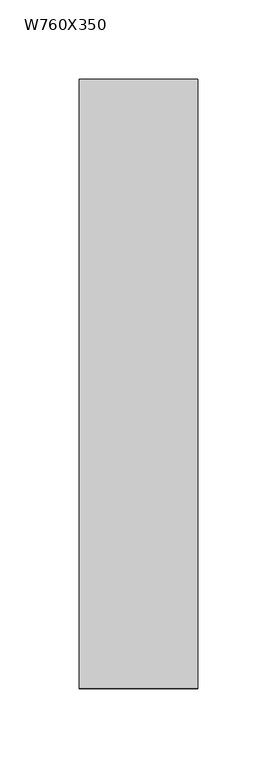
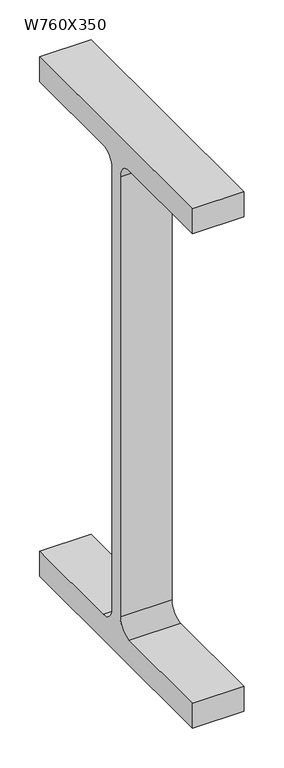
"""IFC4 building model written with IfcOpenShell, lengths in millimetres: beam geometry, M_W-Wide Flange : W760X350."""

from ifc_helpers import new_model, si_unit, point, frame, frame_2d, origin, place, context, project, spatial, polyline, circle_curve, trimmed, segment, composite_curve, outline, extrude, source, transform, mapped, element, save


def w760x350_6f162b3c(model_context):
    return source(origin(), model_context, "Body", "SweptSolid", [
        extrude(outline(composite_curve([segment(polyline([(192.0, -359.4), (192.0, -397.5), (-192.0, -397.5), (-192.0, -359.4), (-32.75, -359.4)]), True, "CONTINUOUS"), segment(trimmed(circle_curve(frame_2d((-32.75, -337.2)), 22.2), [point((-32.75, -359.4))], [point((-10.55, -337.2))], True, "CARTESIAN"), True, "CONTINUOUS"), segment(polyline([(-10.55, -337.2), (-10.55, 337.2)]), True, "CONTINUOUS"), segment(trimmed(circle_curve(frame_2d((-32.75, 337.2)), 22.2), [point((-10.55, 337.2))], [point((-32.75, 359.4))], True, "CARTESIAN"), True, "CONTINUOUS"), segment(polyline([(-32.75, 359.4), (-192.0, 359.4), (-192.0, 397.5), (192.0, 397.5), (192.0, 359.4), (32.75, 359.4)]), True, "CONTINUOUS"), segment(trimmed(circle_curve(frame_2d((32.75, 337.2)), 22.2), [point((32.75, 359.4))], [point((10.55, 337.2))], True, "CARTESIAN"), True, "CONTINUOUS"), segment(polyline([(10.55, 337.2), (10.55, -337.2)]), True, "CONTINUOUS"), segment(trimmed(circle_curve(frame_2d((32.75, -337.2)), 22.2), [point((10.55, -337.2))], [point((32.75, -359.4))], True, "CARTESIAN"), True, "CONTINUOUS"), segment(polyline([(32.75, -359.4), (192.0, -359.4)]), True, "CONTINUOUS")], self_intersect=False)), frame((-37.2999994, 0.0, 0.0), z_axis=(1.0, 0.0, 0.0), x_axis=(0.0, 1.0, 0.0)), (0.0, 0.0, 1.0), 74.5999988),
    ])


if __name__ == "__main__":
    model = new_model("IFC4")
    model_context = context("Model", 3, world=origin())
    ifc_project = project(units=[si_unit("LENGTHUNIT", "METRE", prefix="MILLI")], contexts=[model_context])
    site = spatial("IfcSite", under=ifc_project)
    building = spatial("IfcBuilding", under=site)
    placement = place(None, origin())
    w760x350_shape = w760x350_6f162b3c(model_context)
    element("IfcBeam", 1, ObjectType="M_W-Wide Flange : W760X350", at=placement, inside=building, context=model_context, shape_type="MappedRepresentation", body=[
        mapped(w760x350_shape, transform((0.0, 0.0, 0.0), x_axis=(1.0, 0.0, 0.0), y_axis=(0.0, 1.0, 0.0), z_axis=(0.0, 0.0, 1.0))),
    ])
    save(model, "model.ifc")
